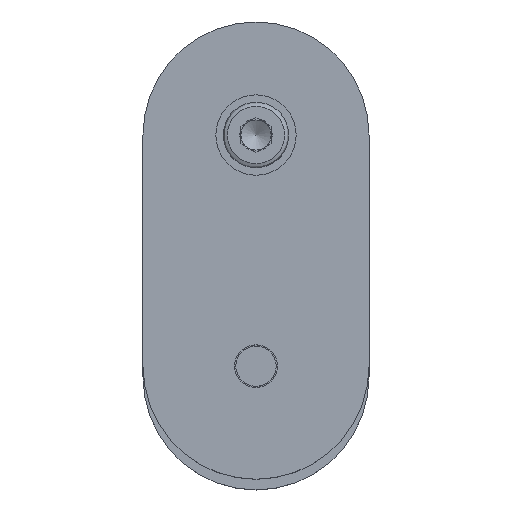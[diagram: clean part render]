
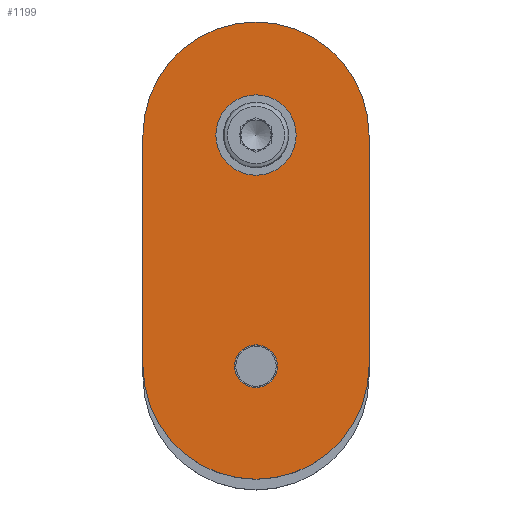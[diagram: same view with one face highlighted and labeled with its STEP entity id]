
A CAD part, top view. The second image highlights one B-rep face of the part: STEP entity #1199.
In plain terms, the highlighted planar face has unit normal (0, 0, 1).
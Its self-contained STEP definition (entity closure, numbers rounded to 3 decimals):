
#89 = ORIENTED_EDGE ( 'NONE', *, *, #914, .T. ) ;
#129 = CARTESIAN_POINT ( 'NONE',  ( 45., 0., 8. ) ) ;
#137 = CARTESIAN_POINT ( 'NONE',  ( 22.5, -46., 8. ) ) ;
#145 = LINE ( 'NONE', #326, #709 ) ;
#198 = CARTESIAN_POINT ( 'NONE',  ( 0., 0., 8. ) ) ;
#220 = AXIS2_PLACEMENT_3D ( 'NONE', #137, #976, #800 ) ;
#265 = CARTESIAN_POINT ( 'NONE',  ( 0., -46., 8. ) ) ;
#290 = DIRECTION ( 'NONE',  ( -1., 0., 0. ) ) ;
#296 = FACE_BOUND ( 'NONE', #1004, .T. ) ;
#310 = CIRCLE ( 'NONE', #669, 4.25 ) ;
#322 = EDGE_CURVE ( 'NONE', #1685, #1685, #1225, .T. ) ;
#326 = CARTESIAN_POINT ( 'NONE',  ( 0., 0., 8. ) ) ;
#341 = VERTEX_POINT ( 'NONE', #1106 ) ;
#376 = AXIS2_PLACEMENT_3D ( 'NONE', #1930, #2108, #290 ) ;
#431 = PLANE ( 'NONE',  #220 ) ;
#432 = CARTESIAN_POINT ( 'NONE',  ( 26.75, 0., 8. ) ) ;
#445 = DIRECTION ( 'NONE',  ( 0., 0., 1. ) ) ;
#449 = CARTESIAN_POINT ( 'NONE',  ( 22.5, 0., 8. ) ) ;
#484 = CARTESIAN_POINT ( 'NONE',  ( 45., 0., 8. ) ) ;
#623 = VERTEX_POINT ( 'NONE', #198 ) ;
#648 = DIRECTION ( 'NONE',  ( 1., 0., 0. ) ) ;
#656 = ORIENTED_EDGE ( 'NONE', *, *, #322, .F. ) ;
#669 = AXIS2_PLACEMENT_3D ( 'NONE', #449, #1756, #1580 ) ;
#709 = VECTOR ( 'NONE', #981, 1000. ) ;
#737 = VECTOR ( 'NONE', #1310, 1000. ) ;
#745 = CARTESIAN_POINT ( 'NONE',  ( 26.75, -46., 8. ) ) ;
#746 = ORIENTED_EDGE ( 'NONE', *, *, #1832, .T. ) ;
#767 = CIRCLE ( 'NONE', #376, 22.5 ) ;
#800 = DIRECTION ( 'NONE',  ( 1., 0., 0. ) ) ;
#914 = EDGE_CURVE ( 'NONE', #623, #1264, #145, .T. ) ;
#966 = EDGE_LOOP ( 'NONE', ( #656 ) ) ;
#967 = FACE_OUTER_BOUND ( 'NONE', #1164, .T. ) ;
#975 = ORIENTED_EDGE ( 'NONE', *, *, #1384, .T. ) ;
#976 = DIRECTION ( 'NONE',  ( 0., 0., 1. ) ) ;
#981 = DIRECTION ( 'NONE',  ( 0., -1., 0. ) ) ;
#1004 = EDGE_LOOP ( 'NONE', ( #2071 ) ) ;
#1021 = LINE ( 'NONE', #484, #737 ) ;
#1032 = AXIS2_PLACEMENT_3D ( 'NONE', #1912, #1891, #1747 ) ;
#1106 = CARTESIAN_POINT ( 'NONE',  ( 45., -46., 8. ) ) ;
#1110 = VERTEX_POINT ( 'NONE', #129 ) ;
#1164 = EDGE_LOOP ( 'NONE', ( #746, #975, #1742, #89 ) ) ;
#1199 = ADVANCED_FACE ( 'NONE', ( #296, #967, #1433 ), #431, .T. ) ;
#1225 = CIRCLE ( 'NONE', #1032, 4.25 ) ;
#1264 = VERTEX_POINT ( 'NONE', #265 ) ;
#1310 = DIRECTION ( 'NONE',  ( 0., 1., 0. ) ) ;
#1384 = EDGE_CURVE ( 'NONE', #341, #1110, #1021, .T. ) ;
#1433 = FACE_BOUND ( 'NONE', #966, .T. ) ;
#1551 = EDGE_CURVE ( 'NONE', #1762, #1762, #310, .T. ) ;
#1580 = DIRECTION ( 'NONE',  ( 1., 0., 0. ) ) ;
#1659 = CIRCLE ( 'NONE', #1994, 22.5 ) ;
#1685 = VERTEX_POINT ( 'NONE', #745 ) ;
#1742 = ORIENTED_EDGE ( 'NONE', *, *, #1848, .T. ) ;
#1747 = DIRECTION ( 'NONE',  ( 1., 0., 0. ) ) ;
#1756 = DIRECTION ( 'NONE',  ( 0., 0., 1. ) ) ;
#1762 = VERTEX_POINT ( 'NONE', #432 ) ;
#1832 = EDGE_CURVE ( 'NONE', #1264, #341, #1659, .T. ) ;
#1848 = EDGE_CURVE ( 'NONE', #1110, #623, #767, .T. ) ;
#1891 = DIRECTION ( 'NONE',  ( 0., 0., 1. ) ) ;
#1912 = CARTESIAN_POINT ( 'NONE',  ( 22.5, -46., 8. ) ) ;
#1930 = CARTESIAN_POINT ( 'NONE',  ( 22.5, 0., 8. ) ) ;
#1949 = CARTESIAN_POINT ( 'NONE',  ( 22.5, -46., 8. ) ) ;
#1994 = AXIS2_PLACEMENT_3D ( 'NONE', #1949, #445, #648 ) ;
#2071 = ORIENTED_EDGE ( 'NONE', *, *, #1551, .F. ) ;
#2108 = DIRECTION ( 'NONE',  ( 0., 0., 1. ) ) ;
